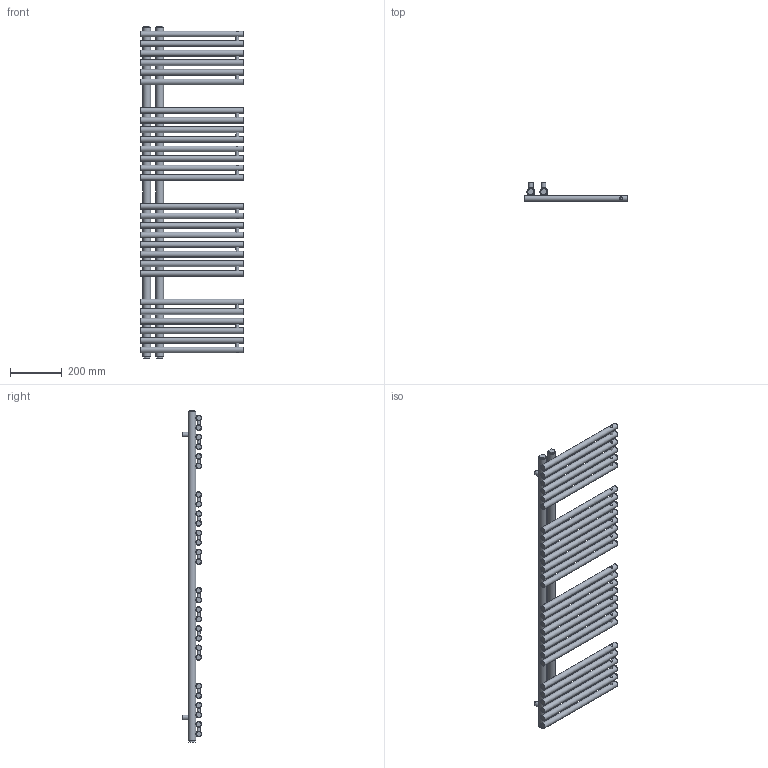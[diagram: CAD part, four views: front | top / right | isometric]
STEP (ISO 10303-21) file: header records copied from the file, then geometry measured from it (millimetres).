
FILE_DESCRIPTION(/* description */ (''),/* implementation_level */ '2;1');
FILE_NAME(/* name */ 'C:\Grzejniki\13DLUXRAD\łazienkowe\MODEL E\MODEL E 1271x400.iam.stp',/* time_stamp */ '2016-06-28T17:35:14+02:00',/* author */ ('m.szydziak'),/* organization */ (''),/* preprocessor_version */ 'ST-DEVELOPER v16.5',/* originating_system */ 'Autodesk Inventor 2017',/* authorisation */ '');
FILE_SCHEMA (('AUTOMOTIVE_DESIGN { 1 0 10303 214 3 1 1 }'));
Length unit declared in the file: millimetre
Products named in the file (7): MODEL E 1271x400; %%c30x1,5x1271; fi22x1,2x400; uchwyt stały; zaślepka fi30 G0,5inch; korek; %%c18x1,5x54
Assembly tree (56 placements, depth 2):
  MODEL E 1271x400
    %%c30x1,5x1271  x2
    fi22x1,2x400  x28
    uchwyt stały  x4
    zaślepka fi30 G0,5inch  x4
    korek  x4
    %%c18x1,5x54  x14
Bounding box: 400 x 74 x 1283 mm (x, y, z)
Volume: 1290602.6 mm3; surface area: 2018286.7 mm2
Topology: 56 solids, 84 shells, 388 faces, 796 edges, 580 vertices
Faces by surface type: plane 220, cylinder 168
Full cylindrical faces by diameter (mm): 9 x14, 10 x56, 12 x14, 15 x4, 18 x4, 18.631 x8, 19.6 x28, 22 x28, 24 x4, 27 x6, 30 x2
Entity records: 4441 total; most frequent: CARTESIAN_POINT 2314, DIRECTION 362, ORIENTED_EDGE 290, EDGE_LOOP 176, AXIS2_PLACEMENT_3D 169, EDGE_CURVE 145, VERTEX_POINT 133, FACE_BOUND 107
